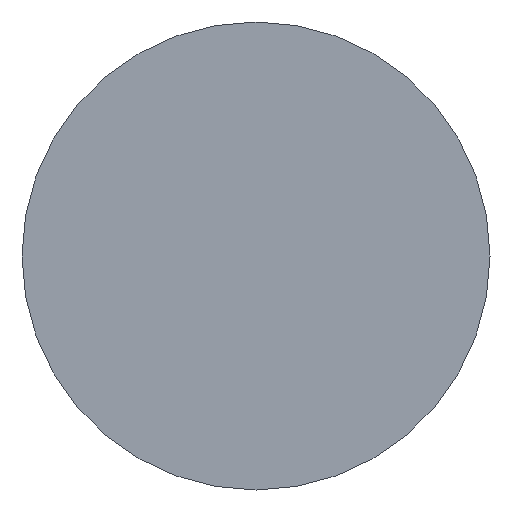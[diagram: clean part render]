
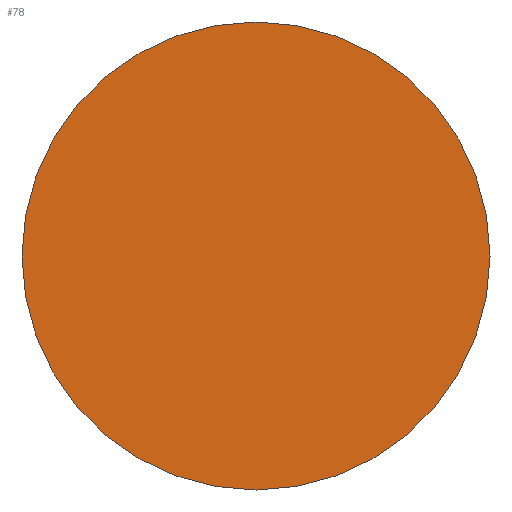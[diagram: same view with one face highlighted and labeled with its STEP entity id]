
A CAD part, left-side view. The second image highlights one B-rep face of the part: STEP entity #78.
In plain terms, the highlighted free-form (B-spline) face has degree [1, 1] with [2, 2] control points.
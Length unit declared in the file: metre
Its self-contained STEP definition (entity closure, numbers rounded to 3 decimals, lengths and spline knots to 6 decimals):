
#78 = ADVANCED_FACE( '', ( #141 ), #142, .F. );
#141 = FACE_OUTER_BOUND( '', #268, .T. );
#142 = B_SPLINE_SURFACE_WITH_KNOTS( '', 1, 1, ( ( #269, #270 ), ( #271, #272 ) ), .UNSPECIFIED., .F., .F., .F., ( 2, 2 ), ( 2, 2 ), ( 0., 1. ), ( 0., 1. ), .UNSPECIFIED. );
#268 = EDGE_LOOP( '', ( #1049, #1050 ) );
#269 = CARTESIAN_POINT( '', ( 0., -0.021758, 0.021758 ) );
#270 = CARTESIAN_POINT( '', ( 0., 0.021758, 0.021758 ) );
#271 = CARTESIAN_POINT( '', ( 0., -0.021758, -0.021758 ) );
#272 = CARTESIAN_POINT( '', ( 0., 0.021758, -0.021758 ) );
#1049 = ORIENTED_EDGE( '', *, *, #1389, .F. );
#1050 = ORIENTED_EDGE( '', *, *, #1390, .F. );
#1389 = EDGE_CURVE( '', #1509, #1510, #1511, .T. );
#1390 = EDGE_CURVE( '', #1510, #1509, #1512, .T. );
#1509 = VERTEX_POINT( '', #1691 );
#1510 = VERTEX_POINT( '', #1692 );
#1511 = CIRCLE( '', #1693, 0.0215 );
#1512 = CIRCLE( '', #1694, 0.0215 );
#1691 = CARTESIAN_POINT( '', ( 0., 0., 0.0215 ) );
#1692 = CARTESIAN_POINT( '', ( 0., 0., -0.0215 ) );
#1693 = AXIS2_PLACEMENT_3D( '', #2181, #2182, #2183 );
#1694 = AXIS2_PLACEMENT_3D( '', #2184, #2185, #2186 );
#2181 = CARTESIAN_POINT( '', ( 0., 0., 0. ) );
#2182 = DIRECTION( '', ( 1., 0., 0. ) );
#2183 = DIRECTION( '', ( 0., 0., -1. ) );
#2184 = CARTESIAN_POINT( '', ( 0., 0., 0. ) );
#2185 = DIRECTION( '', ( 1., 0., 0. ) );
#2186 = DIRECTION( '', ( 0., 0., -1. ) );
